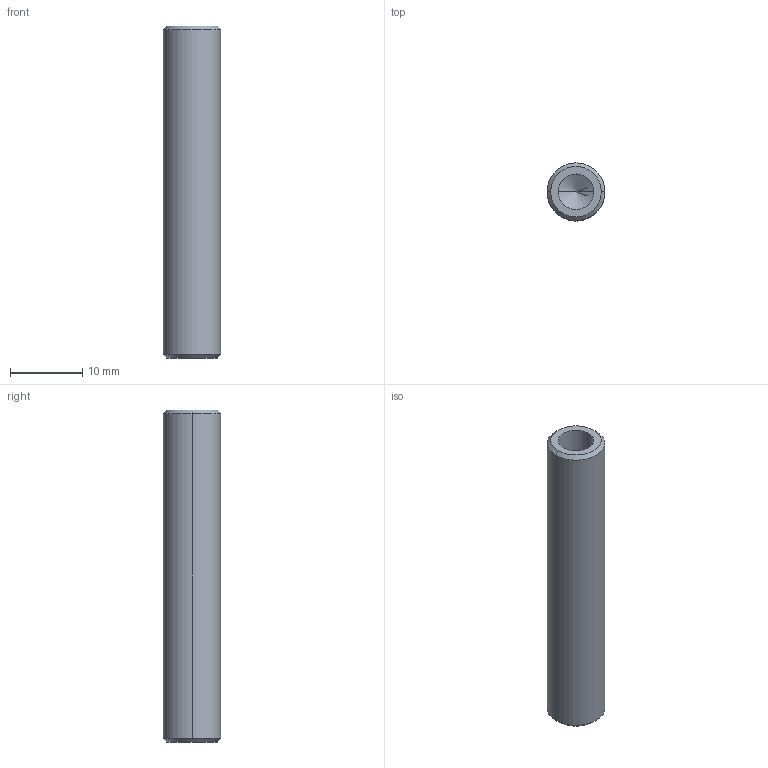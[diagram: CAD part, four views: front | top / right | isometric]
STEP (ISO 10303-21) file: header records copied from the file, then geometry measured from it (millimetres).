
FILE_DESCRIPTION (( 'STEP AP214' ), '1' );
FILE_NAME ('GZ29.08_V1弹簧轴.STEP', '2021-05-07T06:01:54', ( '微软中国' ), ( 'Microsoft' ), 'SwSTEP 2.0', 'SolidWorks 2017', '' );
FILE_SCHEMA (( 'AUTOMOTIVE_DESIGN' ));
Length unit declared in the file: millimetre
Products named in the file (1): GZ29.08_V1粟銅粣
Bounding box: 8 x 8 x 46 mm (x, y, z)
Volume: 1641.9 mm3; surface area: 1772.8 mm2
Topology: 1 solids, 1 shells, 16 faces, 34 edges, 18 vertices
Faces by surface type: cone 8, cylinder 6, plane 2
Entity records: 480 total; most frequent: DIRECTION 80, CARTESIAN_POINT 65, ORIENTED_EDGE 60, AXIS2_PLACEMENT_3D 33, EDGE_CURVE 30, VERTEX_POINT 18, EDGE_LOOP 18, CIRCLE 16
